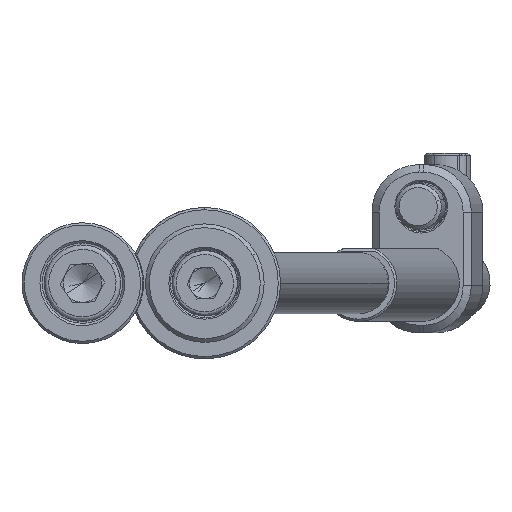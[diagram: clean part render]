
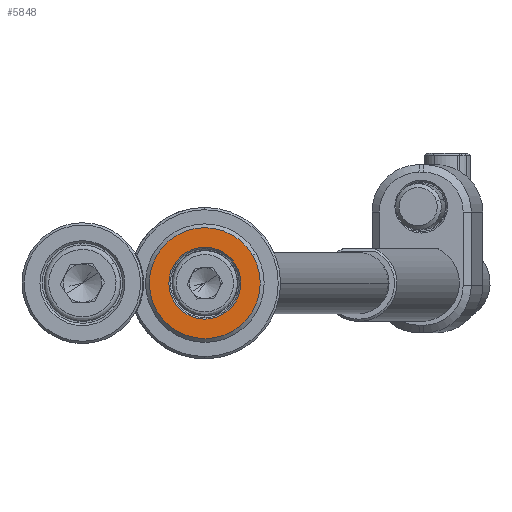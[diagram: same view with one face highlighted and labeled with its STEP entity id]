
A CAD part, front view. The second image highlights one B-rep face of the part: STEP entity #5848.
In plain terms, the highlighted planar face has unit normal (0, -1, 0).
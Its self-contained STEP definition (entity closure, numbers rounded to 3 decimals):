
#101 = AXIS2_PLACEMENT_3D ( 'NONE', #720, #3951, #13717 ) ;
#720 = CARTESIAN_POINT ( 'NONE',  ( 0., -4., 0. ) ) ;
#1013 = EDGE_CURVE ( 'NONE', #6926, #13340, #9059, .T. ) ;
#1043 = FACE_BOUND ( 'NONE', #12434, .T. ) ;
#1757 = VERTEX_POINT ( 'NONE', #11354 ) ;
#2051 = CARTESIAN_POINT ( 'NONE',  ( 2.261, -4., -3.891 ) ) ;
#2177 = DIRECTION ( 'NONE',  ( 0., 1., 0. ) ) ;
#2561 = DIRECTION ( 'NONE',  ( -0.865, 0., -0.503 ) ) ;
#3003 = CARTESIAN_POINT ( 'NONE',  ( -4.063, -4., -2.362 ) ) ;
#3005 = AXIS2_PLACEMENT_3D ( 'NONE', #2051, #9716, #8625 ) ;
#3327 = CARTESIAN_POINT ( 'NONE',  ( 0., -4., 0. ) ) ;
#3514 = ORIENTED_EDGE ( 'NONE', *, *, #1013, .T. ) ;
#3951 = DIRECTION ( 'NONE',  ( 0., 1., 0. ) ) ;
#4180 = EDGE_CURVE ( 'NONE', #13340, #6926, #8939, .T. ) ;
#4220 = CIRCLE ( 'NONE', #101, 4.7 ) ;
#4297 = ORIENTED_EDGE ( 'NONE', *, *, #11021, .T. ) ;
#4643 = VERTEX_POINT ( 'NONE', #3003 ) ;
#4822 = AXIS2_PLACEMENT_3D ( 'NONE', #5629, #11090, #9832 ) ;
#5629 = CARTESIAN_POINT ( 'NONE',  ( 0., -4., 0. ) ) ;
#5704 = AXIS2_PLACEMENT_3D ( 'NONE', #3327, #2177, #13164 ) ;
#5802 = EDGE_CURVE ( 'NONE', #4643, #1757, #8001, .T. ) ;
#5848 = ADVANCED_FACE ( 'NONE', ( #1043, #9861 ), #11054, .F. ) ;
#6926 = VERTEX_POINT ( 'NONE', #12552 ) ;
#6932 = CARTESIAN_POINT ( 'NONE',  ( 0., -4., 0. ) ) ;
#7227 = ORIENTED_EDGE ( 'NONE', *, *, #4180, .T. ) ;
#7370 = EDGE_LOOP ( 'NONE', ( #7227, #3514 ) ) ;
#7741 = ORIENTED_EDGE ( 'NONE', *, *, #5802, .T. ) ;
#8001 = CIRCLE ( 'NONE', #5704, 4.7 ) ;
#8625 = DIRECTION ( 'NONE',  ( -0.865, 0., -0.503 ) ) ;
#8846 = AXIS2_PLACEMENT_3D ( 'NONE', #6932, #10236, #2561 ) ;
#8939 = CIRCLE ( 'NONE', #4822, 7.25 ) ;
#9059 = CIRCLE ( 'NONE', #8846, 7.25 ) ;
#9716 = DIRECTION ( 'NONE',  ( 0., 1., 0. ) ) ;
#9832 = DIRECTION ( 'NONE',  ( -0.865, 0., -0.503 ) ) ;
#9861 = FACE_OUTER_BOUND ( 'NONE', #7370, .T. ) ;
#10236 = DIRECTION ( 'NONE',  ( 0., -1., 0. ) ) ;
#11021 = EDGE_CURVE ( 'NONE', #1757, #4643, #4220, .T. ) ;
#11054 = PLANE ( 'NONE',  #3005 ) ;
#11090 = DIRECTION ( 'NONE',  ( 0., -1., 0. ) ) ;
#11264 = CARTESIAN_POINT ( 'NONE',  ( -6.268, -4., -3.643 ) ) ;
#11354 = CARTESIAN_POINT ( 'NONE',  ( 4.063, -4., 2.362 ) ) ;
#12434 = EDGE_LOOP ( 'NONE', ( #4297, #7741 ) ) ;
#12552 = CARTESIAN_POINT ( 'NONE',  ( 6.268, -4., 3.643 ) ) ;
#13164 = DIRECTION ( 'NONE',  ( -0.865, 0., -0.503 ) ) ;
#13340 = VERTEX_POINT ( 'NONE', #11264 ) ;
#13717 = DIRECTION ( 'NONE',  ( -0.865, 0., -0.503 ) ) ;
